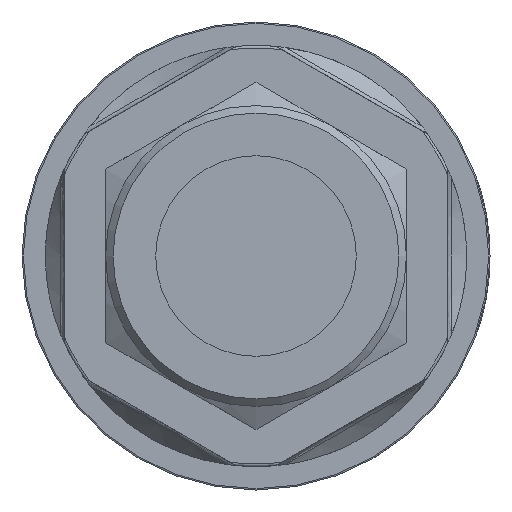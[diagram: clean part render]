
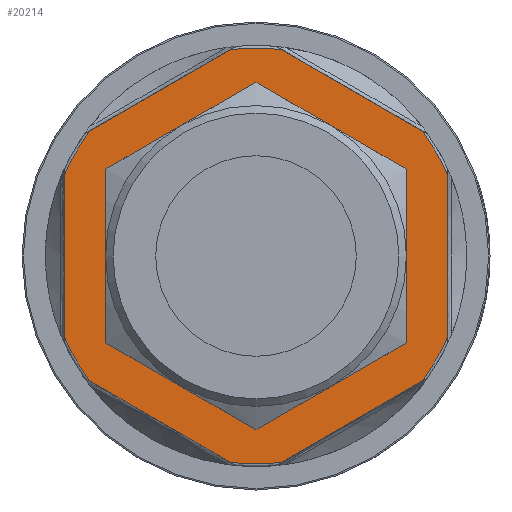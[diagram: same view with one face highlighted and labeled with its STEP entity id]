
A CAD part, left-side view. The second image highlights one B-rep face of the part: STEP entity #20214.
In plain terms, the highlighted planar face has unit normal (-1, 0, 0).
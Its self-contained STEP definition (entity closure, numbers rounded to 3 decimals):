
#1590=CIRCLE('',#21516,19.749);
#1591=CIRCLE('',#21519,19.749);
#1592=CIRCLE('',#21522,19.749);
#1593=CIRCLE('',#21525,19.749);
#1594=CIRCLE('',#21528,19.749);
#1595=CIRCLE('',#21531,19.749);
#1596=CIRCLE('',#21534,12.111);
#2476=LINE('',#45164,#3316);
#2477=LINE('',#45182,#3317);
#2478=LINE('',#45200,#3318);
#2479=LINE('',#45218,#3319);
#2480=LINE('',#45236,#3320);
#2481=LINE('',#45254,#3321);
#3316=VECTOR('',#24964,1000.);
#3317=VECTOR('',#24971,1000.);
#3318=VECTOR('',#24978,1000.);
#3319=VECTOR('',#24985,1000.);
#3320=VECTOR('',#24992,1000.);
#3321=VECTOR('',#24999,1000.);
#7606=ORIENTED_EDGE('',*,*,#9791,.T.);
#7607=ORIENTED_EDGE('',*,*,#9790,.T.);
#7608=ORIENTED_EDGE('',*,*,#9789,.T.);
#7609=ORIENTED_EDGE('',*,*,#9786,.T.);
#7610=ORIENTED_EDGE('',*,*,#9785,.T.);
#7611=ORIENTED_EDGE('',*,*,#9782,.T.);
#7612=ORIENTED_EDGE('',*,*,#9781,.T.);
#7613=ORIENTED_EDGE('',*,*,#9778,.T.);
#7614=ORIENTED_EDGE('',*,*,#9777,.T.);
#7615=ORIENTED_EDGE('',*,*,#9774,.T.);
#7616=ORIENTED_EDGE('',*,*,#9773,.T.);
#7617=ORIENTED_EDGE('',*,*,#9770,.T.);
#7618=ORIENTED_EDGE('',*,*,#9769,.T.);
#9769=EDGE_CURVE('',#11222,#11223,#1590,.T.);
#9770=EDGE_CURVE('',#11224,#11222,#2476,.T.);
#9773=EDGE_CURVE('',#11225,#11224,#1591,.T.);
#9774=EDGE_CURVE('',#11226,#11225,#2477,.T.);
#9777=EDGE_CURVE('',#11227,#11226,#1592,.T.);
#9778=EDGE_CURVE('',#11228,#11227,#2478,.T.);
#9781=EDGE_CURVE('',#11229,#11228,#1593,.T.);
#9782=EDGE_CURVE('',#11230,#11229,#2479,.T.);
#9785=EDGE_CURVE('',#11231,#11230,#1594,.T.);
#9786=EDGE_CURVE('',#11232,#11231,#2480,.T.);
#9789=EDGE_CURVE('',#11233,#11232,#1595,.T.);
#9790=EDGE_CURVE('',#11223,#11233,#2481,.T.);
#9791=EDGE_CURVE('',#11234,#11234,#1596,.F.);
#11222=VERTEX_POINT('',#45154);
#11223=VERTEX_POINT('',#45161);
#11224=VERTEX_POINT('',#45165);
#11225=VERTEX_POINT('',#45179);
#11226=VERTEX_POINT('',#45183);
#11227=VERTEX_POINT('',#45197);
#11228=VERTEX_POINT('',#45201);
#11229=VERTEX_POINT('',#45215);
#11230=VERTEX_POINT('',#45219);
#11231=VERTEX_POINT('',#45233);
#11232=VERTEX_POINT('',#45237);
#11233=VERTEX_POINT('',#45251);
#11234=VERTEX_POINT('',#45257);
#12212=EDGE_LOOP('',(#7606));
#12213=EDGE_LOOP('',(#7607,#7608,#7609,#7610,#7611,#7612,#7613,#7614,#7615,
#7616,#7617,#7618));
#13143=FACE_BOUND('',#12212,.T.);
#13144=FACE_BOUND('',#12213,.T.);
#13618=PLANE('',#21533);
#20214=ADVANCED_FACE('',(#13143,#13144),#13618,.T.);
#21516=AXIS2_PLACEMENT_3D('',#45162,#24960,#24961);
#21519=AXIS2_PLACEMENT_3D('',#45180,#24967,#24968);
#21522=AXIS2_PLACEMENT_3D('',#45198,#24974,#24975);
#21525=AXIS2_PLACEMENT_3D('',#45216,#24981,#24982);
#21528=AXIS2_PLACEMENT_3D('',#45234,#24988,#24989);
#21531=AXIS2_PLACEMENT_3D('',#45252,#24995,#24996);
#21533=AXIS2_PLACEMENT_3D('',#45255,#25000,#25001);
#21534=AXIS2_PLACEMENT_3D('',#45256,#25002,#25003);
#24960=DIRECTION('',(-1.,0.,0.));
#24961=DIRECTION('',(0.,0.5,0.866));
#24964=DIRECTION('',(0.,0.,1.));
#24967=DIRECTION('',(-1.,0.,0.));
#24968=DIRECTION('',(0.,0.5,0.866));
#24971=DIRECTION('',(0.,-0.866,0.5));
#24974=DIRECTION('',(-1.,0.,0.));
#24975=DIRECTION('',(0.,0.5,0.866));
#24978=DIRECTION('',(0.,-0.866,-0.5));
#24981=DIRECTION('',(-1.,0.,0.));
#24982=DIRECTION('',(0.,0.5,0.866));
#24985=DIRECTION('',(0.,0.,-1.));
#24988=DIRECTION('',(-1.,0.,0.));
#24989=DIRECTION('',(0.,0.5,0.866));
#24992=DIRECTION('',(0.,0.866,-0.5));
#24995=DIRECTION('',(-1.,0.,0.));
#24996=DIRECTION('',(0.,0.5,0.866));
#24999=DIRECTION('',(0.,0.866,0.5));
#25000=DIRECTION('',(-1.,0.,0.));
#25001=DIRECTION('',(0.,0.5,0.866));
#25002=DIRECTION('',(-1.,0.,0.));
#25003=DIRECTION('',(0.,-1.,0.));
#45154=CARTESIAN_POINT('',(0.,-18.186,7.698));
#45161=CARTESIAN_POINT('',(0.,-15.76,11.901));
#45162=CARTESIAN_POINT('',(0.,0.,0.));
#45164=CARTESIAN_POINT('',(0.,-18.186,0.));
#45165=CARTESIAN_POINT('',(0.,-18.186,-7.698));
#45179=CARTESIAN_POINT('',(0.,-15.76,-11.901));
#45180=CARTESIAN_POINT('',(0.,0.,0.));
#45182=CARTESIAN_POINT('',(0.,-9.093,-15.75));
#45183=CARTESIAN_POINT('',(0.,-2.427,-19.599));
#45197=CARTESIAN_POINT('',(0.,2.427,-19.599));
#45198=CARTESIAN_POINT('',(0.,0.,0.));
#45200=CARTESIAN_POINT('',(0.,9.093,-15.75));
#45201=CARTESIAN_POINT('',(0.,15.76,-11.901));
#45215=CARTESIAN_POINT('',(0.,18.186,-7.698));
#45216=CARTESIAN_POINT('',(0.,0.,0.));
#45218=CARTESIAN_POINT('',(0.,18.186,0.));
#45219=CARTESIAN_POINT('',(0.,18.186,7.698));
#45233=CARTESIAN_POINT('',(0.,15.76,11.901));
#45234=CARTESIAN_POINT('',(0.,0.,0.));
#45236=CARTESIAN_POINT('',(0.,9.093,15.75));
#45237=CARTESIAN_POINT('',(0.,2.427,19.599));
#45251=CARTESIAN_POINT('',(0.,-2.427,19.599));
#45252=CARTESIAN_POINT('',(0.,0.,0.));
#45254=CARTESIAN_POINT('',(0.,-9.093,15.75));
#45255=CARTESIAN_POINT('',(0.,0.,0.));
#45256=CARTESIAN_POINT('',(0.,0.,0.));
#45257=CARTESIAN_POINT('',(0.,-12.111,0.));
